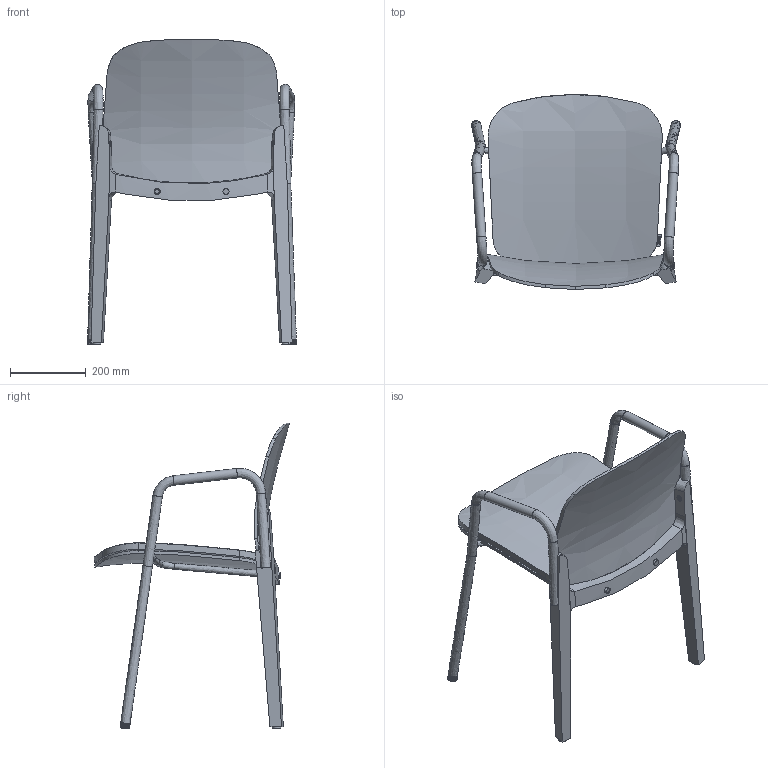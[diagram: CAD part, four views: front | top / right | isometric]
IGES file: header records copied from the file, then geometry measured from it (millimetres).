
Global section: file name: 199aabb3-c731-4097-9224-55f3d853b883; native system: unknown; preprocessor: unknown; author: unknown; organization: unknown; date: 20211021.124902; units: millimetre
Bounding box: 552.43 x 515.28 x 807.58 mm (x, y, z)
Volume: 8330743.2 mm3; surface area: 1875496.4 mm2
Topology: 13 solids, 17 shells, 480 faces, 1259 edges, 835 vertices
Faces by surface type: bspline 480
